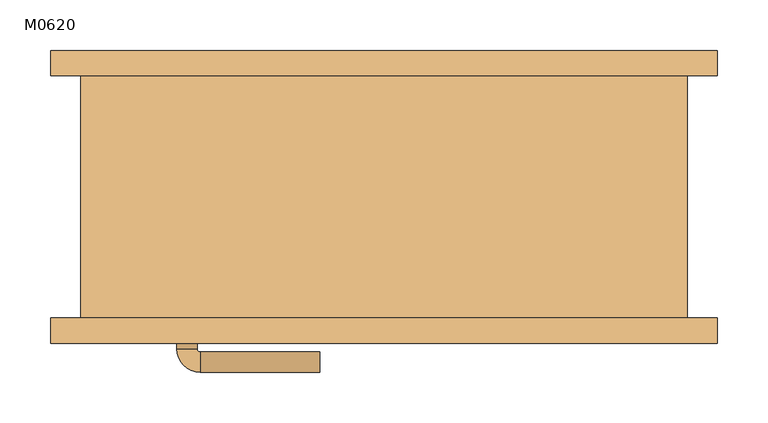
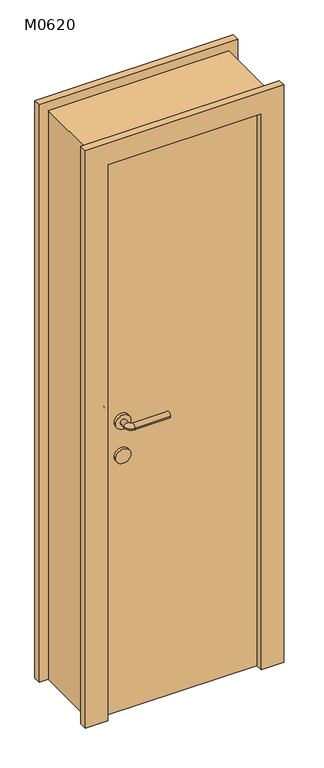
"""IFC4 building model written with IfcOpenShell, lengths in millimetres: door geometry, 单嵌板木门 1 : M0620."""

from ifc_helpers import new_model, si_unit, point, frame, frame_2d, origin, origin_with_axes, place, context, project, spatial, polyline, circle_curve, ellipse_curve, trimmed, segment, composite_curve, outline, extrude, source, transform, mapped, element, save
from ifc_brep_helpers import plane_surface, cylinder_surface, revolved_surface, advanced_brep


def m0620_ca087de5(model_context):
    return source(origin(), model_context, "Body", "SolidModel", [
        extrude(outline(composite_curve([segment(trimmed(circle_curve(frame_2d((900.0, -195.0)), 25.0), [point((900.0, -170.0))], [point((900.0, -220.0))], False, "CARTESIAN"), True, "CONTINUOUS"), segment(trimmed(circle_curve(frame_2d((900.0, -195.0)), 25.0), [point((900.0, -220.0))], [point((900.0, -170.0))], False, "CARTESIAN"), True, "CONTINUOUS")], self_intersect=False)), frame((0.0, -70.0, 0.0), z_axis=(0.0, 1.0, 0.0), x_axis=(0.0, 0.0, 1.0)), (0.0, 0.0, 1.0), 10.0),
        extrude(outline(composite_curve([segment(trimmed(circle_curve(frame_2d((900.0, -195.0)), 25.0), [point((900.0, -170.0))], [point((900.0, -220.0))], False, "CARTESIAN"), True, "CONTINUOUS"), segment(trimmed(circle_curve(frame_2d((900.0, -195.0)), 25.0), [point((900.0, -220.0))], [point((900.0, -170.0))], False, "CARTESIAN"), True, "CONTINUOUS")], self_intersect=False)), frame((0.0, -130.0, 0.0), z_axis=(0.0, 1.0, 0.0), x_axis=(0.0, 0.0, 1.0)), (0.0, 0.0, 1.0), 10.0),
        advanced_brep(
        [(-205.0, -60.0, 1020.0), (-185.0, -60.0, 1020.0), (-205.0, -39.386645, 1020.0), (-185.0, -39.386645, 1020.0), (-63.419036, -16.419036, 1020.0), (-63.419036, -36.419036, 1020.0), (-182.0323911, -36.419036, 1020.0), (-182.0323911, -16.419036, 1020.0)],
        [
            (0, 1, circle_curve(frame((-195.0, -60.0, 1020.0), z_axis=(0.0, -1.0, 0.0), x_axis=(1.0, 0.0, 0.0)), 10.0)),
            (1, 0, circle_curve(frame((-195.0, -60.0, 1020.0), z_axis=(0.0, -1.0, 0.0), x_axis=(1.0, 0.0, 0.0)), 10.0)),
            (0, 2),
            (2, 3, circle_curve(frame((-195.0, -39.386645, 1020.0), z_axis=(0.0, -1.0, 0.0), x_axis=(1.0, 0.0, 0.0)), 10.0)),
            (3, 1),
            (3, 2, circle_curve(frame((-195.0, -39.386645, 1020.0), z_axis=(0.0, -1.0, 0.0), x_axis=(1.0, 0.0, 0.0)), 10.0)),
            (4, 5, circle_curve(frame((-63.419036, -26.419036, 1020.0), z_axis=(1.0, 0.0, 0.0), x_axis=(0.0, -1.0, 0.0)), 10.0)),
            (5, 4, circle_curve(frame((-63.419036, -26.419036, 1020.0), z_axis=(1.0, 0.0, 0.0), x_axis=(0.0, -1.0, 0.0)), 10.0)),
            (6, 7, circle_curve(frame((-182.0323911, -26.419036, 1020.0), z_axis=(-1.0, 0.0, 0.0), x_axis=(0.0, -1.0, 0.0)), 10.0)),
            (7, 2, circle_curve(frame((-182.0323911, -39.386645, 1020.0), z_axis=(0.0, 0.0, 1.0), x_axis=(-1.0, 0.0, 0.0)), 22.9676089)),
            (3, 6, circle_curve(frame((-182.0323911, -39.386645, 1020.0), z_axis=(0.0, 0.0, -1.0), x_axis=(-1.0, 0.0, 0.0)), 2.9676089)),
            (7, 6, circle_curve(frame((-182.0323911, -26.419036, 1020.0), z_axis=(-1.0, 0.0, 0.0), x_axis=(0.0, -1.0, 0.0)), 10.0)),
            (6, 5),
            (4, 7),
        ],
        [
            plane_surface(frame((-195.0, -60.0, 900.0), z_axis=(0.0, -1.0, 0.0), x_axis=(0.0, 0.0, 1.0))),
            cylinder_surface(frame((-195.0, -60.0, 1020.0), z_axis=(0.0, -1.0, 0.0), x_axis=(1.0, 0.0, 0.0)), 10.0),
            plane_surface(frame((-63.419036, -26.419036, 900.0), z_axis=(1.0, 0.0, 0.0), x_axis=(0.0, 0.0, 1.0))),
            revolved_surface(trimmed(ellipse_curve(frame((-195.0, -39.386645, 1020.0), z_axis=(0.0, 1.0, 0.0), x_axis=(1.0, 0.0, 0.0)), 10.0, 10.0), [point((-205.0, -39.386645, 1020.0))], [point((-185.0, -39.386645, 1020.0))], True, "CARTESIAN"), (-182.0323911, -39.386645, 900.0), (0.0, 0.0, 1.0)),
            revolved_surface(trimmed(ellipse_curve(frame((-195.0, -39.386645, 1020.0), z_axis=(0.0, 1.0, 0.0), x_axis=(1.0, 0.0, 0.0)), 10.0, 10.0), [point((-185.0, -39.386645, 1020.0))], [point((-205.0, -39.386645, 1020.0))], True, "CARTESIAN"), (-182.0323911, -39.386645, 900.0), (0.0, 0.0, 1.0)),
            cylinder_surface(frame((-182.0323911, -26.419036, 1020.0), z_axis=(-1.0, 0.0, 0.0), x_axis=(0.0, -1.0, 0.0)), 10.0),
        ],
        [
            (0, [[1, 2]]),
            (1, [[3, 4, 5, -1]]),
            (1, [[-5, 6, -3, -2]]),
            (2, [[7, 8]]),
            (3, [[9, 10, -6, 11]]),
            (4, [[12, -11, -4, -10]]),
            (5, [[13, -7, 14, -9]]),
            (5, [[-14, -8, -13, -12]]),
        ],
    ),
        extrude(outline(composite_curve([segment(trimmed(circle_curve(frame_2d((1020.0, -195.0)), 25.0), [point((1020.0, -170.0))], [point((1020.0, -220.0))], False, "CARTESIAN"), True, "CONTINUOUS"), segment(trimmed(circle_curve(frame_2d((1020.0, -195.0)), 25.0), [point((1020.0, -220.0))], [point((1020.0, -170.0))], False, "CARTESIAN"), True, "CONTINUOUS")], self_intersect=False)), frame((0.0, -70.0, 0.0), z_axis=(0.0, 1.0, 0.0), x_axis=(0.0, 0.0, 1.0)), (0.0, 0.0, 1.0), 10.0),
        advanced_brep(
        [(-185.0, -130.0, 1020.0), (-205.0, -130.0, 1020.0), (-205.0, -150.6133551, 1020.0), (-185.0, -150.6133551, 1020.0), (-63.419036, -153.580964, 1020.0), (-63.419036, -173.580964, 1020.0), (-182.0323911, -173.580964, 1020.0), (-182.0323911, -153.580964, 1020.0)],
        [
            (0, 1, circle_curve(frame((-195.0, -130.0, 1020.0), z_axis=(0.0, 1.0, 0.0), x_axis=(-1.0, 0.0, 0.0)), 10.0)),
            (1, 0, circle_curve(frame((-195.0, -130.0, 1020.0), z_axis=(0.0, 1.0, 0.0), x_axis=(-1.0, 0.0, 0.0)), 10.0)),
            (1, 2),
            (2, 3, circle_curve(frame((-195.0, -150.6133551, 1020.0), z_axis=(0.0, 1.0, 0.0), x_axis=(-1.0, 0.0, 0.0)), 10.0)),
            (3, 0),
            (3, 2, circle_curve(frame((-195.0, -150.6133551, 1020.0), z_axis=(0.0, 1.0, 0.0), x_axis=(-1.0, 0.0, 0.0)), 10.0)),
            (4, 5, circle_curve(frame((-63.419036, -163.580964, 1020.0), z_axis=(1.0, 0.0, 0.0), x_axis=(0.0, -1.0, 0.0)), 10.0)),
            (5, 4, circle_curve(frame((-63.419036, -163.580964, 1020.0), z_axis=(1.0, 0.0, 0.0), x_axis=(0.0, -1.0, 0.0)), 10.0)),
            (6, 7, circle_curve(frame((-182.0323911, -163.580964, 1020.0), z_axis=(-1.0, 0.0, 0.0), x_axis=(0.0, -1.0, 0.0)), 10.0)),
            (7, 3, circle_curve(frame((-182.0323911, -150.6133551, 1020.0), z_axis=(0.0, 0.0, -1.0), x_axis=(-1.0, 0.0, 0.0)), 2.9676089)),
            (2, 6, circle_curve(frame((-182.0323911, -150.6133551, 1020.0), z_axis=(0.0, 0.0, 1.0), x_axis=(-1.0, 0.0, 0.0)), 22.9676089)),
            (7, 6, circle_curve(frame((-182.0323911, -163.580964, 1020.0), z_axis=(-1.0, 0.0, 0.0), x_axis=(0.0, -1.0, 0.0)), 10.0)),
            (6, 5),
            (4, 7),
        ],
        [
            plane_surface(frame((-195.0, -130.0, 900.0), z_axis=(0.0, 1.0, 0.0), x_axis=(0.0, 0.0, 1.0))),
            cylinder_surface(frame((-195.0, -130.0, 1020.0), z_axis=(0.0, 1.0, 0.0), x_axis=(-1.0, 0.0, 0.0)), 10.0),
            plane_surface(frame((-63.419036, -163.580964, 900.0), z_axis=(1.0, 0.0, 0.0), x_axis=(0.0, 0.0, 1.0))),
            revolved_surface(trimmed(ellipse_curve(frame((-195.0, -150.6133551, 1020.0), z_axis=(0.0, -1.0, 0.0), x_axis=(-1.0, 0.0, 0.0)), 10.0, 10.0), [point((-185.0, -150.6133551, 1020.0))], [point((-205.0, -150.6133551, 1020.0))], True, "CARTESIAN"), (-182.0323911, -150.6133551, 900.0), (0.0, 0.0, -1.0)),
            revolved_surface(trimmed(ellipse_curve(frame((-195.0, -150.6133551, 1020.0), z_axis=(0.0, -1.0, 0.0), x_axis=(-1.0, 0.0, 0.0)), 10.0, 10.0), [point((-205.0, -150.6133551, 1020.0))], [point((-185.0, -150.6133551, 1020.0))], True, "CARTESIAN"), (-182.0323911, -150.6133551, 900.0), (0.0, 0.0, -1.0)),
            cylinder_surface(frame((-182.0323911, -163.580964, 1020.0), z_axis=(-1.0, 0.0, 0.0), x_axis=(0.0, -1.0, 0.0)), 10.0),
        ],
        [
            (0, [[1, 2]]),
            (1, [[3, 4, 5, -2]]),
            (1, [[-5, 6, -3, -1]]),
            (2, [[7, 8]]),
            (3, [[9, 10, -4, 11]]),
            (4, [[12, -11, -6, -10]]),
            (5, [[13, -7, 14, -9]]),
            (5, [[-14, -8, -13, -12]]),
        ],
    ),
        extrude(outline(composite_curve([segment(trimmed(circle_curve(frame_2d((1020.0, -195.0)), 25.0), [point((1020.0, -170.0))], [point((1020.0, -220.0))], False, "CARTESIAN"), True, "CONTINUOUS"), segment(trimmed(circle_curve(frame_2d((1020.0, -195.0)), 25.0), [point((1020.0, -220.0))], [point((1020.0, -170.0))], False, "CARTESIAN"), True, "CONTINUOUS")], self_intersect=False)), frame((0.0, -130.0, 0.0), z_axis=(0.0, 1.0, 0.0), x_axis=(0.0, 0.0, 1.0)), (0.0, 0.0, 1.0), 10.0),
        extrude(outline(polyline([(0.0, 330.0), (2030.0, 330.0), (2030.0, -330.0), (0.0, -330.0), (0.0, -255.0), (1955.0, -255.0), (1955.0, 255.0), (0.0, 255.0), (0.0, 330.0)])), frame((0.0, -145.0, 0.0), z_axis=(0.0, 1.0, 0.0), x_axis=(0.0, 0.0, 1.0)), (0.0, 0.0, 1.0), 25.0),
        extrude(outline(polyline([(2030.0, 330.0), (2030.0, -330.0), (0.0, -330.0), (0.0, -255.0), (1955.0, -255.0), (1955.0, 255.0), (0.0, 255.0), (0.0, 330.0), (2030.0, 330.0)])), frame((0.0, 120.0, 0.0), z_axis=(0.0, 1.0, 0.0), x_axis=(0.0, 0.0, 1.0)), (0.0, 0.0, 1.0), 25.0),
        extrude(outline(polyline([(255.0, -70.0), (255.0, -120.0), (-255.0, -120.0), (-255.0, -70.0), (255.0, -70.0)])), origin_with_axes(), (0.0, 0.0, 1.0), 1955.0),
        extrude(outline(polyline([(2000.0, -300.0), (0.0, -300.0), (0.0, -255.0), (1955.0, -255.0), (1955.0, 255.0), (0.0, 255.0), (0.0, 300.0), (2000.0, 300.0), (2000.0, -300.0)])), frame((0.0, -120.0, 0.0), z_axis=(0.0, 1.0, 0.0), x_axis=(0.0, 0.0, 1.0)), (0.0, 0.0, 1.0), 240.0),
    ])


if __name__ == "__main__":
    model = new_model("IFC4")
    model_context = context("Model", 3, world=origin())
    ifc_project = project(units=[si_unit("LENGTHUNIT", "METRE", prefix="MILLI")], contexts=[model_context])
    site = spatial("IfcSite", under=ifc_project)
    building = spatial("IfcBuilding", under=site)
    placement = place(None, origin())
    m0620_shape = m0620_ca087de5(model_context)
    element("IfcDoor", 1, ObjectType="单嵌板木门 1 : M0620", at=placement, inside=building, context=model_context, shape_type="MappedRepresentation", body=[
        mapped(m0620_shape, transform((0.0, 0.0, 0.0), x_axis=(1.0, 0.0, 0.0), y_axis=(0.0, 1.0, 0.0), z_axis=(0.0, 0.0, 1.0))),
    ])
    save(model, "model.ifc")
